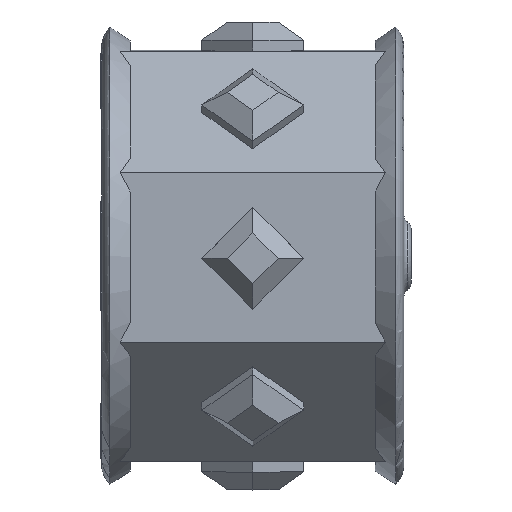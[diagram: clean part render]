
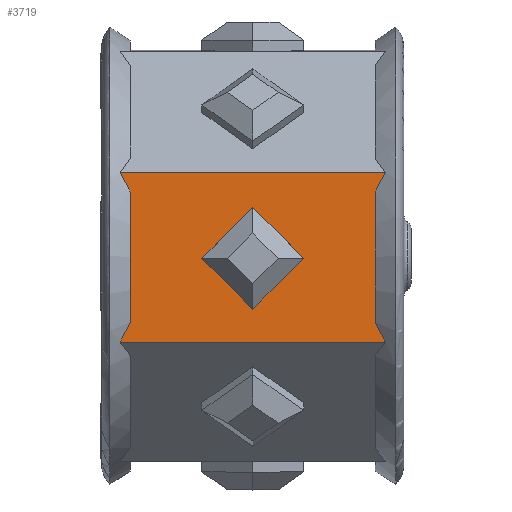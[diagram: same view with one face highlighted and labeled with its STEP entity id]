
A CAD part, top view. The second image highlights one B-rep face of the part: STEP entity #3719.
In plain terms, the highlighted planar face has unit normal (0, -0.007, 1).
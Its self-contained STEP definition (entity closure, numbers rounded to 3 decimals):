
#258=VECTOR('',#12497,1.);
#266=VECTOR('',#12526,1.);
#405=VECTOR('',#13005,1.);
#408=VECTOR('',#13009,1.);
#467=VECTOR('',#13095,1.);
#468=VECTOR('',#13097,1.);
#485=VECTOR('',#13125,1.);
#486=VECTOR('',#13127,1.);
#495=LINE('',#4083,#258);
#503=LINE('',#4175,#266);
#642=LINE('',#12296,#405);
#645=LINE('',#12302,#408);
#704=LINE('',#12424,#467);
#705=LINE('',#12426,#468);
#722=LINE('',#12459,#485);
#723=LINE('',#12461,#486);
#821=PLANE('',#3989);
#828=(
BOUNDED_CURVE()
B_SPLINE_CURVE(2,(#4002,#4003,#4004),.UNSPECIFIED.,.F.,.U.)
B_SPLINE_CURVE_WITH_KNOTS((3,3),(0.,2.385),.UNSPECIFIED.)
CURVE()
GEOMETRIC_REPRESENTATION_ITEM()
RATIONAL_B_SPLINE_CURVE((1.,1.249,1.))
REPRESENTATION_ITEM('')
);
#843=(
BOUNDED_CURVE()
B_SPLINE_CURVE(2,(#4076,#4077,#4078),.UNSPECIFIED.,.F.,.U.)
B_SPLINE_CURVE_WITH_KNOTS((3,3),(0.,2.385),.UNSPECIFIED.)
CURVE()
GEOMETRIC_REPRESENTATION_ITEM()
RATIONAL_B_SPLINE_CURVE((1.,1.249,1.))
REPRESENTATION_ITEM('')
);
#844=(
BOUNDED_CURVE()
B_SPLINE_CURVE(2,(#4094,#4095,#4096),.UNSPECIFIED.,.F.,.U.)
B_SPLINE_CURVE_WITH_KNOTS((3,3),(0.,2.385),.UNSPECIFIED.)
CURVE()
GEOMETRIC_REPRESENTATION_ITEM()
RATIONAL_B_SPLINE_CURVE((1.,1.249,1.))
REPRESENTATION_ITEM('')
);
#859=(
BOUNDED_CURVE()
B_SPLINE_CURVE(2,(#4168,#4169,#4170),.UNSPECIFIED.,.F.,.U.)
B_SPLINE_CURVE_WITH_KNOTS((3,3),(0.,2.385),.UNSPECIFIED.)
CURVE()
GEOMETRIC_REPRESENTATION_ITEM()
RATIONAL_B_SPLINE_CURVE((1.,1.249,1.))
REPRESENTATION_ITEM('')
);
#861=VERTEX_POINT('',#4000);
#862=VERTEX_POINT('',#4001);
#863=VERTEX_POINT('',#4005);
#884=VERTEX_POINT('',#4075);
#886=VERTEX_POINT('',#4092);
#887=VERTEX_POINT('',#4093);
#888=VERTEX_POINT('',#4097);
#909=VERTEX_POINT('',#4167);
#1178=VERTEX_POINT('',#12295);
#1179=VERTEX_POINT('',#12297);
#1180=VERTEX_POINT('',#12301);
#1216=VERTEX_POINT('',#12423);
#1347=EDGE_CURVE('',#863,#862,#828,.T.);
#1369=EDGE_CURVE('',#861,#884,#843,.T.);
#1373=EDGE_CURVE('',#862,#861,#495,.T.);
#1380=EDGE_CURVE('',#888,#887,#844,.T.);
#1402=EDGE_CURVE('',#886,#909,#859,.T.);
#1406=EDGE_CURVE('',#887,#886,#503,.T.);
#1820=EDGE_CURVE('',#1179,#1178,#642,.T.);
#1823=EDGE_CURVE('',#1178,#1180,#645,.T.);
#1882=EDGE_CURVE('',#1180,#1216,#704,.T.);
#1883=EDGE_CURVE('',#1216,#1179,#705,.T.);
#1900=EDGE_CURVE('',#909,#863,#722,.T.);
#1901=EDGE_CURVE('',#888,#884,#723,.T.);
#2947=ORIENTED_EDGE('',*,*,#1823,.T.);
#2948=ORIENTED_EDGE('',*,*,#1882,.T.);
#2949=ORIENTED_EDGE('',*,*,#1883,.T.);
#2950=ORIENTED_EDGE('',*,*,#1820,.T.);
#2951=ORIENTED_EDGE('',*,*,#1900,.T.);
#2952=ORIENTED_EDGE('',*,*,#1347,.T.);
#2953=ORIENTED_EDGE('',*,*,#1373,.T.);
#2954=ORIENTED_EDGE('',*,*,#1369,.T.);
#2955=ORIENTED_EDGE('',*,*,#1901,.F.);
#2956=ORIENTED_EDGE('',*,*,#1380,.T.);
#2957=ORIENTED_EDGE('',*,*,#1406,.T.);
#2958=ORIENTED_EDGE('',*,*,#1402,.T.);
#3255=EDGE_LOOP('',(#2947,#2948,#2949,#2950));
#3256=EDGE_LOOP('',(#2951,#2952,#2953,#2954,#2955,#2956,#2957,#2958));
#3493=FACE_BOUND('',#3255,.T.);
#3494=FACE_BOUND('',#3256,.T.);
#3719=ADVANCED_FACE('',(#3493,#3494),#821,.T.);
#3989=AXIS2_PLACEMENT_3D('',#12460,#13126,$);
#4000=CARTESIAN_POINT('',(-43.09,22.171,22.341));
#4001=CARTESIAN_POINT('',(-43.09,31.213,22.408));
#4002=CARTESIAN_POINT('',(-47.377,37.355,22.453));
#4003=CARTESIAN_POINT('',(-37.761,26.692,22.375));
#4004=CARTESIAN_POINT('',(-47.377,16.029,22.296));
#4005=CARTESIAN_POINT('',(-43.804,32.594,22.418));
#4075=CARTESIAN_POINT('',(-43.804,20.79,22.331));
#4076=CARTESIAN_POINT('',(-47.377,37.355,22.453));
#4077=CARTESIAN_POINT('',(-37.761,26.692,22.375));
#4078=CARTESIAN_POINT('',(-47.377,16.029,22.296));
#4083=CARTESIAN_POINT('',(-43.09,20.79,22.331));
#4092=CARTESIAN_POINT('',(-26.09,31.213,22.408));
#4093=CARTESIAN_POINT('',(-26.09,22.171,22.341));
#4094=CARTESIAN_POINT('',(-21.804,16.029,22.296));
#4095=CARTESIAN_POINT('',(-31.42,26.692,22.375));
#4096=CARTESIAN_POINT('',(-21.804,37.355,22.453));
#4097=CARTESIAN_POINT('',(-25.377,20.79,22.331));
#4167=CARTESIAN_POINT('',(-25.377,32.594,22.418));
#4168=CARTESIAN_POINT('',(-21.804,16.029,22.296));
#4169=CARTESIAN_POINT('',(-31.42,26.692,22.375));
#4170=CARTESIAN_POINT('',(-21.804,37.355,22.453));
#4175=CARTESIAN_POINT('',(-26.09,20.79,22.331));
#12295=CARTESIAN_POINT('',(-31.055,26.618,22.374));
#12296=CARTESIAN_POINT('',(-30.716,26.279,22.372));
#12297=CARTESIAN_POINT('',(-34.59,30.153,22.4));
#12301=CARTESIAN_POINT('',(-34.59,23.082,22.348));
#12302=CARTESIAN_POINT('',(-30.679,26.993,22.377));
#12423=CARTESIAN_POINT('',(-38.126,26.618,22.374));
#12424=CARTESIAN_POINT('',(-34.252,22.744,22.346));
#12426=CARTESIAN_POINT('',(-34.215,30.529,22.403));
#12459=CARTESIAN_POINT('',(-26.09,32.594,22.418));
#12460=CARTESIAN_POINT('',(-26.09,26.692,22.375));
#12461=CARTESIAN_POINT('',(-26.09,20.79,22.331));
#12497=DIRECTION('',(0.,-1.,-0.007));
#12526=DIRECTION('',(0.,1.,0.007));
#13005=DIRECTION('',(0.707,-0.707,-0.005));
#13009=DIRECTION('',(-0.707,-0.707,-0.005));
#13095=DIRECTION('',(-0.707,0.707,0.005));
#13097=DIRECTION('',(0.707,0.707,0.005));
#13125=DIRECTION('',(-1.,0.,0.));
#13126=DIRECTION('',(0.,-0.007,1.));
#13127=DIRECTION('',(-1.,0.,0.));
